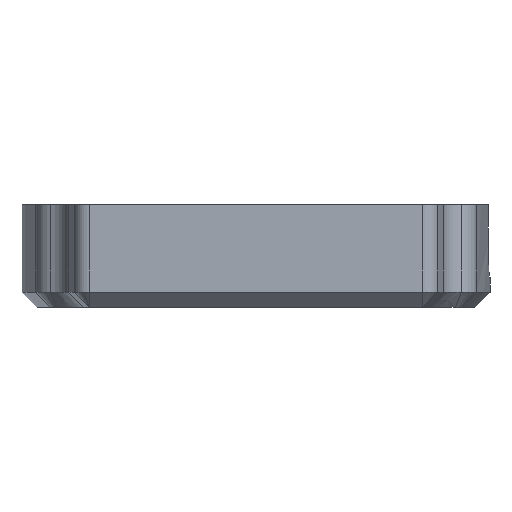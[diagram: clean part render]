
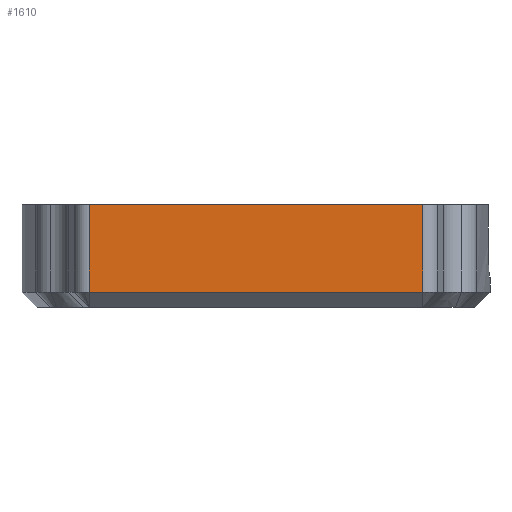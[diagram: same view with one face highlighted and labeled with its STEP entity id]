
A CAD part, front view. The second image highlights one B-rep face of the part: STEP entity #1610.
In plain terms, the highlighted planar face has unit normal (0, -1, 0).
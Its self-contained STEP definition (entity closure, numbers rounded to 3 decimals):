
#8 = LINE ( 'NONE', #812, #1546 ) ;
#11 = EDGE_CURVE ( 'NONE', #222, #2646, #818, .T. ) ;
#117 = CARTESIAN_POINT ( 'NONE',  ( 16.383, -26., -10.1 ) ) ;
#130 = VERTEX_POINT ( 'NONE', #1235 ) ;
#159 = CARTESIAN_POINT ( 'NONE',  ( 16.383, -26., 0. ) ) ;
#222 = VERTEX_POINT ( 'NONE', #3007 ) ;
#729 = DIRECTION ( 'NONE',  ( 0., 0., 1. ) ) ;
#784 = AXIS2_PLACEMENT_3D ( 'NONE', #962, #1910, #3078 ) ;
#812 = CARTESIAN_POINT ( 'NONE',  ( 16.383, -26., -8.6 ) ) ;
#818 = LINE ( 'NONE', #159, #3488 ) ;
#955 = FACE_OUTER_BOUND ( 'NONE', #1378, .T. ) ;
#962 = CARTESIAN_POINT ( 'NONE',  ( 16.383, -26., -10.1 ) ) ;
#1075 = DIRECTION ( 'NONE',  ( -1., 0., 0. ) ) ;
#1106 = DIRECTION ( 'NONE',  ( 1., 0., 0. ) ) ;
#1174 = LINE ( 'NONE', #1641, #2900 ) ;
#1235 = CARTESIAN_POINT ( 'NONE',  ( 16.383, -26., -8.6 ) ) ;
#1332 = ORIENTED_EDGE ( 'NONE', *, *, #3238, .F. ) ;
#1362 = ORIENTED_EDGE ( 'NONE', *, *, #3786, .T. ) ;
#1378 = EDGE_LOOP ( 'NONE', ( #1332, #1362, #1481, #1671 ) ) ;
#1430 = LINE ( 'NONE', #117, #2755 ) ;
#1481 = ORIENTED_EDGE ( 'NONE', *, *, #3143, .T. ) ;
#1526 = CARTESIAN_POINT ( 'NONE',  ( -16.383, -26., 0. ) ) ;
#1546 = VECTOR ( 'NONE', #1106, 1000. ) ;
#1610 = ADVANCED_FACE ( 'NONE', ( #955 ), #2467, .F. ) ;
#1641 = CARTESIAN_POINT ( 'NONE',  ( -16.383, -26., -10.1 ) ) ;
#1671 = ORIENTED_EDGE ( 'NONE', *, *, #11, .T. ) ;
#1883 = DIRECTION ( 'NONE',  ( 0., 0., 1. ) ) ;
#1910 = DIRECTION ( 'NONE',  ( 0., 1., 0. ) ) ;
#2467 = PLANE ( 'NONE',  #784 ) ;
#2487 = VERTEX_POINT ( 'NONE', #3327 ) ;
#2646 = VERTEX_POINT ( 'NONE', #1526 ) ;
#2755 = VECTOR ( 'NONE', #1883, 1000. ) ;
#2900 = VECTOR ( 'NONE', #729, 1000. ) ;
#3007 = CARTESIAN_POINT ( 'NONE',  ( 16.383, -26., 0. ) ) ;
#3078 = DIRECTION ( 'NONE',  ( 0., 0., 1. ) ) ;
#3143 = EDGE_CURVE ( 'NONE', #130, #222, #1430, .T. ) ;
#3238 = EDGE_CURVE ( 'NONE', #2487, #2646, #1174, .T. ) ;
#3327 = CARTESIAN_POINT ( 'NONE',  ( -16.383, -26., -8.6 ) ) ;
#3488 = VECTOR ( 'NONE', #1075, 1000. ) ;
#3786 = EDGE_CURVE ( 'NONE', #2487, #130, #8, .T. ) ;
